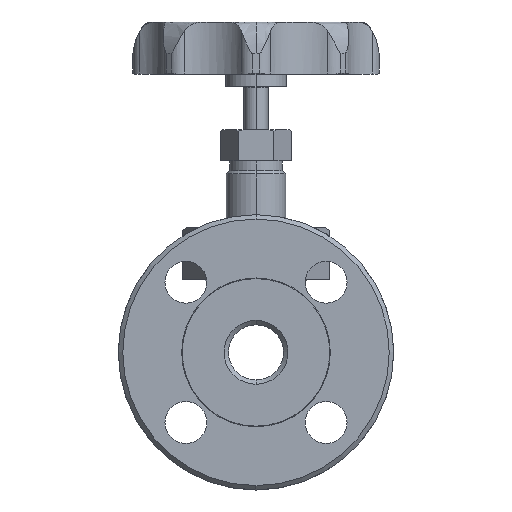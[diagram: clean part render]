
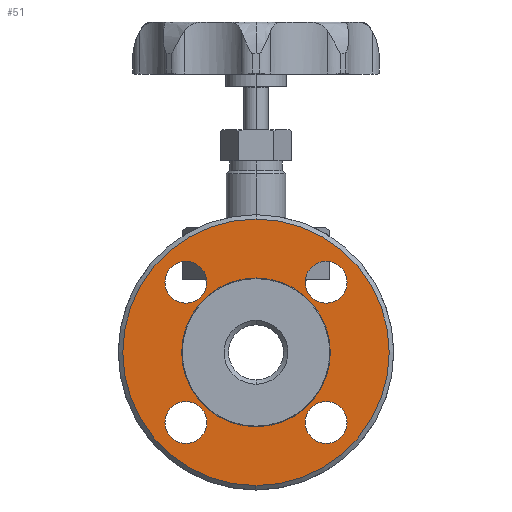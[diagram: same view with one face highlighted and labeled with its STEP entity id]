
A CAD part, left-side view. The second image highlights one B-rep face of the part: STEP entity #51.
In plain terms, the highlighted planar face has unit normal (-1, 0, 0).
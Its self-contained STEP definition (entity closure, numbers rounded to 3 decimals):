
#51=ADVANCED_FACE('',(#397,#398,#399,#400,#401,#402),#396,.T.);
#396=PLANE('',#2749);
#397=FACE_OUTER_BOUND('',#2750,.T.);
#398=FACE_BOUND('',#2751,.T.);
#399=FACE_BOUND('',#2752,.T.);
#400=FACE_BOUND('',#2753,.T.);
#401=FACE_BOUND('',#2754,.T.);
#402=FACE_BOUND('',#2755,.T.);
#2746=CARTESIAN_POINT('',(-64.,-114.789,-131.));
#2747=DIRECTION('',(-1.,0.,0.));
#2748=DIRECTION('',(0.,0.,1.));
#2749=AXIS2_PLACEMENT_3D('',#2746,#2747,#2748);
#2750=EDGE_LOOP('',(#4597,#4598));
#2751=EDGE_LOOP('',(#4599,#4600));
#2752=EDGE_LOOP('',(#4601,#4602));
#2753=EDGE_LOOP('',(#4603,#4604));
#2754=EDGE_LOOP('',(#4605,#4606));
#2755=EDGE_LOOP('',(#4607,#4608));
#4597=ORIENTED_EDGE('',*,*,#5954,.T.);
#4598=ORIENTED_EDGE('',*,*,#5955,.T.);
#4599=ORIENTED_EDGE('',*,*,#5956,.T.);
#4600=ORIENTED_EDGE('',*,*,#5957,.T.);
#4601=ORIENTED_EDGE('',*,*,#5958,.T.);
#4602=ORIENTED_EDGE('',*,*,#5959,.T.);
#4603=ORIENTED_EDGE('',*,*,#5960,.F.);
#4604=ORIENTED_EDGE('',*,*,#5961,.F.);
#4605=ORIENTED_EDGE('',*,*,#5962,.T.);
#4606=ORIENTED_EDGE('',*,*,#5963,.T.);
#4607=ORIENTED_EDGE('',*,*,#5964,.T.);
#4608=ORIENTED_EDGE('',*,*,#5965,.T.);
#5954=EDGE_CURVE('',#7543,#7544,#7545,.T.);
#5955=EDGE_CURVE('',#7544,#7543,#7551,.T.);
#5956=EDGE_CURVE('',#7557,#7558,#7559,.T.);
#5957=EDGE_CURVE('',#7558,#7557,#7565,.T.);
#5958=EDGE_CURVE('',#7571,#7572,#7573,.T.);
#5959=EDGE_CURVE('',#7572,#7571,#7579,.T.);
#5960=EDGE_CURVE('',#7585,#7586,#7587,.T.);
#5961=EDGE_CURVE('',#7586,#7585,#7593,.T.);
#5962=EDGE_CURVE('',#7599,#7600,#7601,.T.);
#5963=EDGE_CURVE('',#7600,#7599,#7607,.T.);
#5964=EDGE_CURVE('',#7613,#7614,#7615,.T.);
#5965=EDGE_CURVE('',#7614,#7613,#7621,.T.);
#7543=VERTEX_POINT('',#11836);
#7544=VERTEX_POINT('',#11837);
#7545=CIRCLE('',#11841,60.5);
#7551=CIRCLE('',#11845,60.5);
#7557=VERTEX_POINT('',#11846);
#7558=VERTEX_POINT('',#11847);
#7559=CIRCLE('',#11851,9.5);
#7565=CIRCLE('',#11855,9.5);
#7571=VERTEX_POINT('',#11856);
#7572=VERTEX_POINT('',#11857);
#7573=CIRCLE('',#11861,9.5);
#7579=CIRCLE('',#11865,9.5);
#7585=VERTEX_POINT('',#11866);
#7586=VERTEX_POINT('',#11867);
#7587=CIRCLE('',#11871,33.768);
#7593=CIRCLE('',#11875,33.768);
#7599=VERTEX_POINT('',#11876);
#7600=VERTEX_POINT('',#11877);
#7601=CIRCLE('',#11881,9.5);
#7607=CIRCLE('',#11885,9.5);
#7613=VERTEX_POINT('',#11886);
#7614=VERTEX_POINT('',#11887);
#7615=CIRCLE('',#11891,9.5);
#7621=CIRCLE('',#11895,9.5);
#11836=CARTESIAN_POINT('',(-64.,0.,60.5));
#11837=CARTESIAN_POINT('',(-64.,0.,-60.5));
#11838=CARTESIAN_POINT('',(-64.,0.,0.));
#11839=DIRECTION('',(-1.,0.,0.));
#11840=DIRECTION('',(0.,0.,1.));
#11841=AXIS2_PLACEMENT_3D('',#11838,#11839,#11840);
#11842=CARTESIAN_POINT('',(-64.,0.,0.));
#11843=DIRECTION('',(-1.,0.,0.));
#11844=DIRECTION('',(0.,0.,1.));
#11845=AXIS2_PLACEMENT_3D('',#11842,#11843,#11844);
#11846=CARTESIAN_POINT('',(-64.,-31.82,41.32));
#11847=CARTESIAN_POINT('',(-64.,-31.82,22.32));
#11848=CARTESIAN_POINT('',(-64.,-31.82,31.82));
#11849=DIRECTION('',(1.,0.,0.));
#11850=DIRECTION('',(0.,0.,1.));
#11851=AXIS2_PLACEMENT_3D('',#11848,#11849,#11850);
#11852=CARTESIAN_POINT('',(-64.,-31.82,31.82));
#11853=DIRECTION('',(1.,0.,0.));
#11854=DIRECTION('',(0.,0.,1.));
#11855=AXIS2_PLACEMENT_3D('',#11852,#11853,#11854);
#11856=CARTESIAN_POINT('',(-64.,31.82,-22.32));
#11857=CARTESIAN_POINT('',(-64.,31.82,-41.32));
#11858=CARTESIAN_POINT('',(-64.,31.82,-31.82));
#11859=DIRECTION('',(1.,0.,0.));
#11860=DIRECTION('',(0.,0.,1.));
#11861=AXIS2_PLACEMENT_3D('',#11858,#11859,#11860);
#11862=CARTESIAN_POINT('',(-64.,31.82,-31.82));
#11863=DIRECTION('',(1.,0.,0.));
#11864=DIRECTION('',(0.,0.,1.));
#11865=AXIS2_PLACEMENT_3D('',#11862,#11863,#11864);
#11866=CARTESIAN_POINT('',(-64.,0.,-33.768));
#11867=CARTESIAN_POINT('',(-64.,0.,33.768));
#11868=CARTESIAN_POINT('',(-64.,0.,0.));
#11869=DIRECTION('',(-1.,0.,0.));
#11870=DIRECTION('',(0.,0.,1.));
#11871=AXIS2_PLACEMENT_3D('',#11868,#11869,#11870);
#11872=CARTESIAN_POINT('',(-64.,0.,0.));
#11873=DIRECTION('',(-1.,0.,0.));
#11874=DIRECTION('',(0.,0.,1.));
#11875=AXIS2_PLACEMENT_3D('',#11872,#11873,#11874);
#11876=CARTESIAN_POINT('',(-64.,-31.82,-22.32));
#11877=CARTESIAN_POINT('',(-64.,-31.82,-41.32));
#11878=CARTESIAN_POINT('',(-64.,-31.82,-31.82));
#11879=DIRECTION('',(1.,0.,0.));
#11880=DIRECTION('',(0.,0.,1.));
#11881=AXIS2_PLACEMENT_3D('',#11878,#11879,#11880);
#11882=CARTESIAN_POINT('',(-64.,-31.82,-31.82));
#11883=DIRECTION('',(1.,0.,0.));
#11884=DIRECTION('',(0.,0.,1.));
#11885=AXIS2_PLACEMENT_3D('',#11882,#11883,#11884);
#11886=CARTESIAN_POINT('',(-64.,31.82,41.32));
#11887=CARTESIAN_POINT('',(-64.,31.82,22.32));
#11888=CARTESIAN_POINT('',(-64.,31.82,31.82));
#11889=DIRECTION('',(1.,0.,0.));
#11890=DIRECTION('',(0.,0.,1.));
#11891=AXIS2_PLACEMENT_3D('',#11888,#11889,#11890);
#11892=CARTESIAN_POINT('',(-64.,31.82,31.82));
#11893=DIRECTION('',(1.,0.,0.));
#11894=DIRECTION('',(0.,0.,1.));
#11895=AXIS2_PLACEMENT_3D('',#11892,#11893,#11894);
